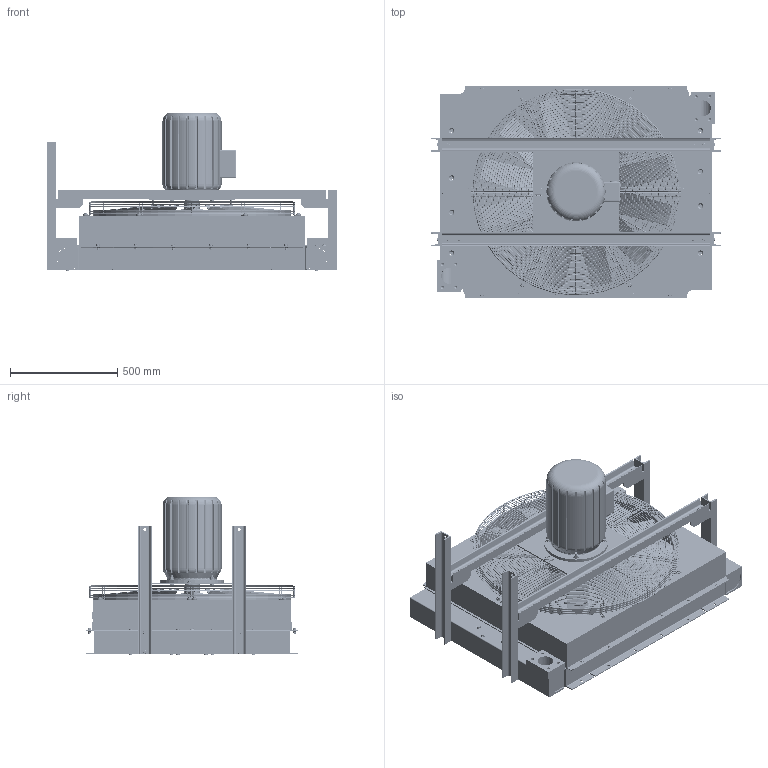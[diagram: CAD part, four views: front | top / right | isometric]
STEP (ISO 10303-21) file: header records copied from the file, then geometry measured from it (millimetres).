
FILE_DESCRIPTION( ( 'Unknown' ), '1' );
FILE_NAME( 'C:/udc_output_files/5210.203.0000.stp', 'Unknown', ( 'Christian Polakowski' ), ( 'AKG TTD' ), 'PSStep 14.0', 'Unknown', ' ' );
FILE_SCHEMA( ( 'AUTOMOTIVE_DESIGN { 1 0 10303 214 1 1 1 1 }' ) );
Length unit declared in the file: millimetre
Products named in the file (159): 10000201147_000-oa6; 10000017701_000-oa5; 10000000744_000; 10000030434_000; 10000019493_000; 10000030420_000-oa0; 10000018974_000-oa1; 10000030429_000; 10000006262_000; 10000008841_000-oa2; 10000016600_000-oa3; 10000016600_000-oa4; 10000000737_000; 10000000768_000; 10000030439_000; 10000030445_000; 10000000664_000; 10000000811_000; 10000030427_000; 10000030415_000; 10000000915_000; 10000032294_000; 10000000627_000; 10000001235_000; 10000001275_000; 10000201565_000; 10000201565_000-oa7; 10000201565_000-oa8; 10000201565_000-oa9; 10000030418_000; 10000030418_000-oa10; 10000030909_000; 10000030909_000-oa11; 10000032266_000; 10000032266_000-oa12; 10000032270_000; Assem1; 10000001205_000; 10000001226_000; 10000001230_000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
Assembly tree (296 placements, depth 5):
  Assem1
    10000000627_000  x8
    10000001205_000  x2
    10000001226_000  x20
    10000001230_000  x8
    10000001275_000  x12
    10000001288_000  x4
    10000001299_000  x32
    10000001739_000  x2
    10000001741_000
    10000001262_000  x4
    10000004853_000
    10000004853_000
    10000004853_000
    10000004853_000
    10000004853_000
    10000004853_000
    10000004853_000
    10000004853_000
    10000004853_000
    10000004853_000
    10000004853_000
    10000004853_000
    10000004853_000
    10000004853_000
    10000004853_000
    10000004853_000
    10000004853_000
    10000004853_000
    10000004853_000
    10000004853_000
    10000004853_000
    10000004853_000
    10000004853_000
    10000004853_000
    10000004853_000
    10000004853_000
    10000004853_000
    10000004853_000
    10000004853_000
    10000004853_000
    10000004853_000
    10000004853_000
    10000004853_000
    10000004853_000
    10000004853_000
    10000004853_000
    10000004853_000
    10000004853_000
    10000004853_000
    10000004853_000
    10000004853_000
    10000004853_000
    10000004853_000
    10000004853_000
    10000004853_000
    10000004853_000
    10000004853_000
    10000004853_000
    10000004853_000
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Bounding box: 1354 x 986 x 739.5 mm (x, y, z)
Volume: 153012083.9 mm3; surface area: 11908751.7 mm2
Topology: 307 solids, 307 shells, 5193 faces, 12310 edges, 7948 vertices
Faces by surface type: plane 2425, cylinder 948, bspline 788, cone 540, torus 381, extrusion 107, sphere 4
Full cylindrical faces by diameter (mm): 5.188 x2, 6 x74, 6.4 x2, 6.8 x36, 8 x36, 8.4 x72, 8.9 x2, 10.5 x24, 10.86 x5, 11.63 x36, 12 x5, 12.5 x3, 13 x4, 13.5 x8, 14 x8, 14.2 x2, 14.5 x4, 14.7 x8, 15 x12, 16 x48, 16.5 x16, 16.63 x5, 19 x2, 19.9 x2, 23 x24, 24 x4, 25 x2, 26 x2, 38 x1, 60 x1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
Entity records: 194846 total; most frequent: CARTESIAN_POINT 88108, ORIENTED_EDGE 16568, DIRECTION 13223, EDGE_CURVE 8284, VERTEX_POINT 5585, AXIS2_PLACEMENT_3D 5170, EDGE_LOOP 4348, FACE_OUTER_BOUND 3929
